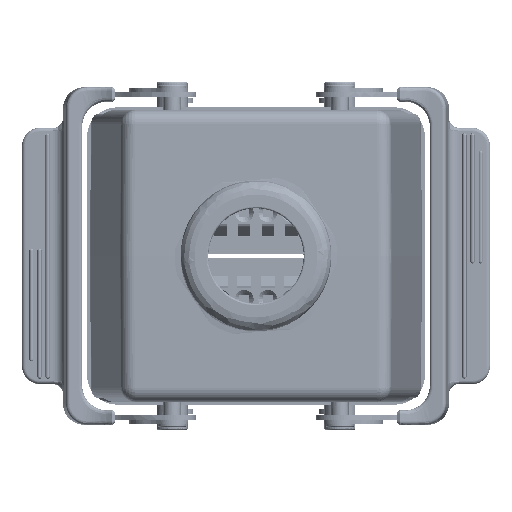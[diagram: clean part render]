
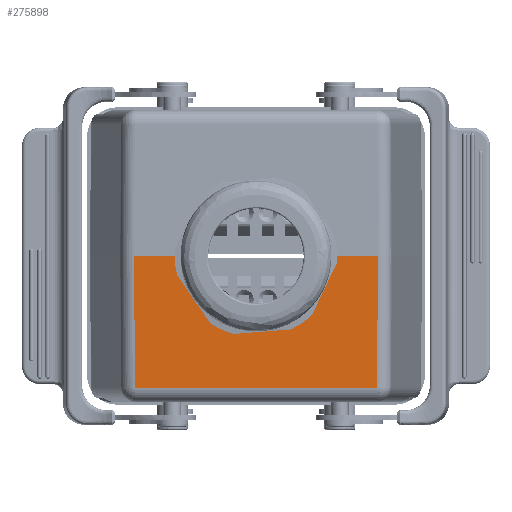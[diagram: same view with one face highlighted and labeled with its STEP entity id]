
A CAD part, front view. The second image highlights one B-rep face of the part: STEP entity #275898.
In plain terms, the highlighted planar face has unit normal (0, -1, -0.009) as drawn and (0, 1, 0.009) by its records, which use the part's own axes.
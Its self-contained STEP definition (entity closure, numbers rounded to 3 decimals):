
#2066 = ORIENTED_EDGE ( 'NONE', *, *, #275723, .T. ) ;
#3989 = LINE ( 'NONE', #158446, #262321 ) ;
#5632 = VECTOR ( 'NONE', #228068, 1000. ) ;
#7634 = VERTEX_POINT ( 'NONE', #202617 ) ;
#9193 = CARTESIAN_POINT ( 'NONE',  ( -9.464, 46.885, 13.168 ) ) ;
#10615 = CARTESIAN_POINT ( 'NONE',  ( 9.908, 46.888, 12.869 ) ) ;
#12007 = CARTESIAN_POINT ( 'NONE',  ( -12.902, 46.914, 9.864 ) ) ;
#13423 = CARTESIAN_POINT ( 'NONE',  ( 12.206, 46.907, 10.664 ) ) ;
#30816 = CARTESIAN_POINT ( 'NONE',  ( -15.197, 46.951, 5.646 ) ) ;
#33661 = CARTESIAN_POINT ( 'NONE',  ( 2.125, 46.859, 16.104 ) ) ;
#34687 = DIRECTION ( 'NONE',  ( 0., 1., 0.009 ) ) ;
#35074 = CARTESIAN_POINT ( 'NONE',  ( 16.166, 46.989, 1.287 ) ) ;
#36476 = CARTESIAN_POINT ( 'NONE',  ( 14.591, 46.938, 7.128 ) ) ;
#38812 = ORIENTED_EDGE ( 'NONE', *, *, #228239, .T. ) ;
#40464 = EDGE_CURVE ( 'NONE', #239275, #88384, #3989, .T. ) ;
#43619 = CARTESIAN_POINT ( 'NONE',  ( -16.2, 47., 0. ) ) ;
#48806 = VECTOR ( 'NONE', #161383, 1000. ) ;
#52539 = CARTESIAN_POINT ( 'NONE',  ( 16.2, 47., 0. ) ) ;
#53980 = CARTESIAN_POINT ( 'NONE',  ( 15.19, 46.951, 5.64 ) ) ;
#55378 = CARTESIAN_POINT ( 'NONE',  ( 12.726, 46.912, 10.058 ) ) ;
#56786 = CARTESIAN_POINT ( 'NONE',  ( -14.893, 46.944, 6.385 ) ) ;
#58176 = CARTESIAN_POINT ( 'NONE',  ( -8.138, 46.877, 14.057 ) ) ;
#75593 = CARTESIAN_POINT ( 'NONE',  ( -2.122, 46.859, 16.104 ) ) ;
#77013 = CARTESIAN_POINT ( 'NONE',  ( -10.703, 46.894, 12.173 ) ) ;
#78014 = DIRECTION ( 'NONE',  ( 1., 0., 0. ) ) ;
#78428 = CARTESIAN_POINT ( 'NONE',  ( -5.726, 46.868, 15.172 ) ) ;
#79120 = VERTEX_POINT ( 'NONE', #87021 ) ;
#79846 = CARTESIAN_POINT ( 'NONE',  ( 15.048, 46.948, 6.009 ) ) ;
#87021 = CARTESIAN_POINT ( 'NONE',  ( 34.24, 46.675, 37.285 ) ) ;
#88384 = VERTEX_POINT ( 'NONE', #199498 ) ;
#90108 = EDGE_CURVE ( 'NONE', #88384, #79120, #230426, .T. ) ;
#95793 = CARTESIAN_POINT ( 'NONE',  ( 11.664, 46.902, 11.255 ) ) ;
#97174 = CARTESIAN_POINT ( 'NONE',  ( -4.207, 46.863, 15.662 ) ) ;
#98585 = CARTESIAN_POINT ( 'NONE',  ( 16.202, 46.996, 0.514 ) ) ;
#98728 = CARTESIAN_POINT ( 'NONE',  ( -38., 47., 0. ) ) ;
#99996 = CARTESIAN_POINT ( 'NONE',  ( 8.139, 46.877, 14.056 ) ) ;
#101434 = CARTESIAN_POINT ( 'NONE',  ( -15.704, 46.965, 4.002 ) ) ;
#105852 = VECTOR ( 'NONE', #123209, 1000. ) ;
#106698 = PLANE ( 'NONE',  #153135 ) ;
#112889 = VECTOR ( 'NONE', #278297, 1000. ) ;
#114476 = B_SPLINE_CURVE_WITH_KNOTS ( 'NONE', 3,
 ( #52539, #98585, #35074, #186653, #231272, #255677, #140515, #120269, #165047, #166445, #53980, #208232, #79846, #36476, #273096, #250067, #55378, #13423, #206812, #95793, #143366, #10615, #99996, #228462, #124486, #141945, #33661, #144789, #121658, #75593, #185248, #97174, #229874, #78428, #167831, #58176, #9193, #274500, #77013, #252886, #277297, #209658, #12007, #188055, #275887, #254285, #234087, #56786, #123071, #30816, #211062, #101434, #189421, #271660, #146194, #118875, #212503, #183835 ),
 .UNSPECIFIED., .F., .F.,
 ( 4, 1, 1, 2, 2, 1, 1, 2, 2, 2, 1, 2, 2, 2, 2, 2, 2, 2, 2, 2, 2, 1, 2, 2, 2, 1, 1, 2, 2, 1, 1, 2, 2, 4 ),
 ( 0., 0.031, 0.047, 0.055, 0.063, 0.094, 0.109, 0.117, 0.125, 0.188, 0.219, 0.234, 0.25, 0.313, 0.375, 0.438, 0.5, 0.563, 0.594, 0.625, 0.688, 0.719, 0.734, 0.75, 0.813, 0.844, 0.859, 0.867, 0.875, 0.906, 0.922, 0.93, 0.938, 1. ),
 .UNSPECIFIED. ) ;
#114857 = ORIENTED_EDGE ( 'NONE', *, *, #211929, .T. ) ;
#115826 = VERTEX_POINT ( 'NONE', #169514 ) ;
#118875 = CARTESIAN_POINT ( 'NONE',  ( -16.104, 46.982, 2.061 ) ) ;
#120269 = CARTESIAN_POINT ( 'NONE',  ( 15.802, 46.968, 3.614 ) ) ;
#121658 = CARTESIAN_POINT ( 'NONE',  ( -1.065, 46.859, 16.209 ) ) ;
#123071 = CARTESIAN_POINT ( 'NONE',  ( -14.946, 46.945, 6.259 ) ) ;
#123209 = DIRECTION ( 'NONE',  ( -1., 0., 0. ) ) ;
#124486 = CARTESIAN_POINT ( 'NONE',  ( 5.234, 46.866, 15.377 ) ) ;
#138731 = EDGE_LOOP ( 'NONE', ( #200695, #2066, #38812, #234810, #114857, #265158 ) ) ;
#140515 = CARTESIAN_POINT ( 'NONE',  ( 15.929, 46.974, 2.959 ) ) ;
#141945 = CARTESIAN_POINT ( 'NONE',  ( 4.217, 46.863, 15.687 ) ) ;
#143366 = CARTESIAN_POINT ( 'NONE',  ( 10.726, 46.894, 12.196 ) ) ;
#144789 = CARTESIAN_POINT ( 'NONE',  ( 1.067, 46.859, 16.209 ) ) ;
#146194 = CARTESIAN_POINT ( 'NONE',  ( -15.878, 46.972, 3.221 ) ) ;
#146324 = LINE ( 'NONE', #98728, #105852 ) ;
#153135 = AXIS2_PLACEMENT_3D ( 'NONE', #194693, #34687, #78014 ) ;
#158446 = CARTESIAN_POINT ( 'NONE',  ( -34.523, 47., 0. ) ) ;
#161383 = DIRECTION ( 'NONE',  ( 1., 0., 0. ) ) ;
#164647 = CARTESIAN_POINT ( 'NONE',  ( 34.24, 46.675, 37.285 ) ) ;
#165047 = CARTESIAN_POINT ( 'NONE',  ( 15.613, 46.962, 4.387 ) ) ;
#166445 = CARTESIAN_POINT ( 'NONE',  ( 15.327, 46.954, 5.267 ) ) ;
#167831 = CARTESIAN_POINT ( 'NONE',  ( -7.202, 46.873, 14.559 ) ) ;
#169514 = CARTESIAN_POINT ( 'NONE',  ( 34.523, 47., 0. ) ) ;
#177941 = VERTEX_POINT ( 'NONE', #43619 ) ;
#183835 = CARTESIAN_POINT ( 'NONE',  ( -16.2, 47., 0. ) ) ;
#184399 = CARTESIAN_POINT ( 'NONE',  ( -38., 46.675, 37.285 ) ) ;
#185248 = CARTESIAN_POINT ( 'NONE',  ( -3.691, 46.862, 15.792 ) ) ;
#186270 = LINE ( 'NONE', #164647, #5632 ) ;
#186653 = CARTESIAN_POINT ( 'NONE',  ( 16.057, 46.981, 2.188 ) ) ;
#188055 = CARTESIAN_POINT ( 'NONE',  ( -13.792, 46.926, 8.523 ) ) ;
#189421 = CARTESIAN_POINT ( 'NONE',  ( -15.794, 46.968, 3.614 ) ) ;
#191493 = EDGE_CURVE ( 'NONE', #7634, #177941, #114476, .T. ) ;
#194693 = CARTESIAN_POINT ( 'NONE',  ( -38., 47., 0. ) ) ;
#198357 = CARTESIAN_POINT ( 'NONE',  ( -34.523, 47., 0. ) ) ;
#199498 = CARTESIAN_POINT ( 'NONE',  ( -34.24, 46.675, 37.285 ) ) ;
#200695 = ORIENTED_EDGE ( 'NONE', *, *, #90108, .T. ) ;
#201628 = DIRECTION ( 'NONE',  ( 0.008, -0.009, 1. ) ) ;
#202617 = CARTESIAN_POINT ( 'NONE',  ( 16.2, 47., 0. ) ) ;
#206812 = CARTESIAN_POINT ( 'NONE',  ( 11.849, 46.903, 11.06 ) ) ;
#208232 = CARTESIAN_POINT ( 'NONE',  ( 15.096, 46.949, 5.888 ) ) ;
#209658 = CARTESIAN_POINT ( 'NONE',  ( -12.229, 46.907, 10.688 ) ) ;
#211062 = CARTESIAN_POINT ( 'NONE',  ( -15.461, 46.957, 4.898 ) ) ;
#211929 = EDGE_CURVE ( 'NONE', #177941, #239275, #146324, .T. ) ;
#212503 = CARTESIAN_POINT ( 'NONE',  ( -16.203, 46.991, 1.03 ) ) ;
#216364 = FACE_OUTER_BOUND ( 'NONE', #138731, .T. ) ;
#228068 = DIRECTION ( 'NONE',  ( 0.008, 0.009, -1. ) ) ;
#228239 = EDGE_CURVE ( 'NONE', #115826, #7634, #232276, .T. ) ;
#228462 = CARTESIAN_POINT ( 'NONE',  ( 7.207, 46.873, 14.557 ) ) ;
#229874 = CARTESIAN_POINT ( 'NONE',  ( -5.223, 46.866, 15.353 ) ) ;
#230426 = LINE ( 'NONE', #184399, #48806 ) ;
#230860 = CARTESIAN_POINT ( 'NONE',  ( -38., 47., 0. ) ) ;
#231272 = CARTESIAN_POINT ( 'NONE',  ( 15.996, 46.978, 2.575 ) ) ;
#232276 = LINE ( 'NONE', #230860, #112889 ) ;
#234087 = CARTESIAN_POINT ( 'NONE',  ( -14.786, 46.942, 6.63 ) ) ;
#234810 = ORIENTED_EDGE ( 'NONE', *, *, #191493, .T. ) ;
#239275 = VERTEX_POINT ( 'NONE', #198357 ) ;
#250067 = CARTESIAN_POINT ( 'NONE',  ( 13.201, 46.918, 9.414 ) ) ;
#252886 = CARTESIAN_POINT ( 'NONE',  ( -11.095, 46.897, 11.816 ) ) ;
#254285 = CARTESIAN_POINT ( 'NONE',  ( -14.62, 46.939, 6.997 ) ) ;
#255677 = CARTESIAN_POINT ( 'NONE',  ( 15.952, 46.975, 2.832 ) ) ;
#262321 = VECTOR ( 'NONE', #201628, 1000. ) ;
#265158 = ORIENTED_EDGE ( 'NONE', *, *, #40464, .T. ) ;
#271660 = CARTESIAN_POINT ( 'NONE',  ( -15.851, 46.971, 3.354 ) ) ;
#273096 = CARTESIAN_POINT ( 'NONE',  ( 14.09, 46.93, 8.075 ) ) ;
#274500 = CARTESIAN_POINT ( 'NONE',  ( -10.102, 46.889, 12.693 ) ) ;
#275723 = EDGE_CURVE ( 'NONE', #79120, #115826, #186270, .T. ) ;
#275887 = CARTESIAN_POINT ( 'NONE',  ( -14.202, 46.932, 7.834 ) ) ;
#275898 = ADVANCED_FACE ( 'NONE', ( #216364 ), #106698, .T. ) ;
#277297 = CARTESIAN_POINT ( 'NONE',  ( -11.286, 46.898, 11.634 ) ) ;
#278297 = DIRECTION ( 'NONE',  ( -1., 0., 0. ) ) ;
